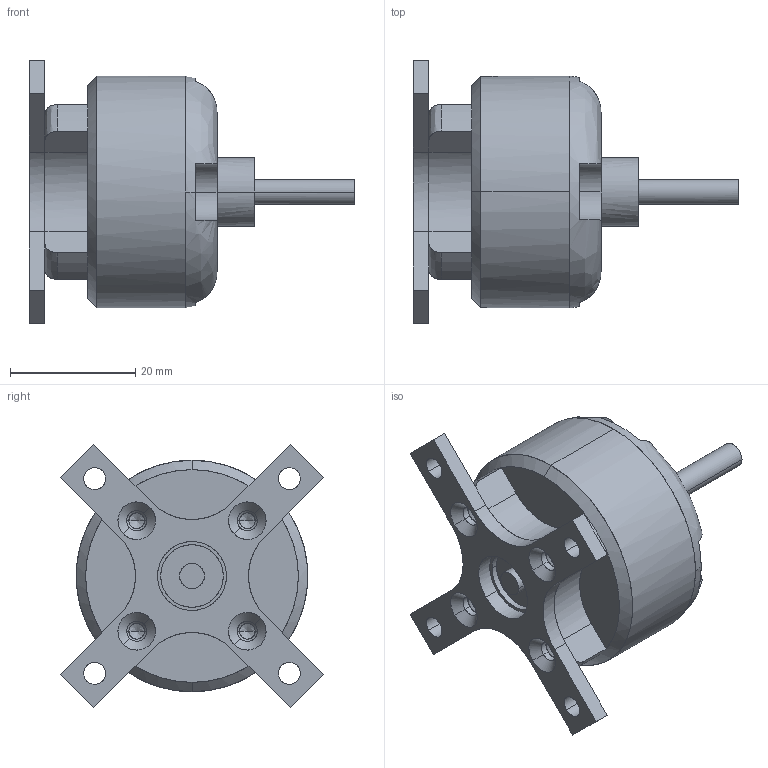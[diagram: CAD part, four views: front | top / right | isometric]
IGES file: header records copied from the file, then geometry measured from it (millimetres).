
Start section: Comment
Global section: file name: AVIONIX_A3728.igs; native system:  By UGS Corp.; preprocessor: XPlus GENERIC/IGES 3.0; author: Author; organization: Title; date: 20111127.171522; units: inch
Bounding box: 52 x 42.07 x 42.07 mm (x, y, z)
Surface area: 8012.7 mm2 (no closed solid volume)
Topology: 0 solids, 0 shells, 143 faces, 704 edges, 696 vertices
Faces by surface type: bspline 143
